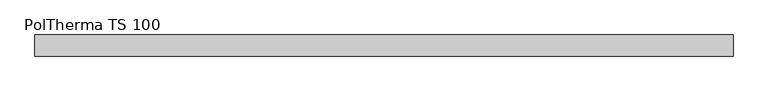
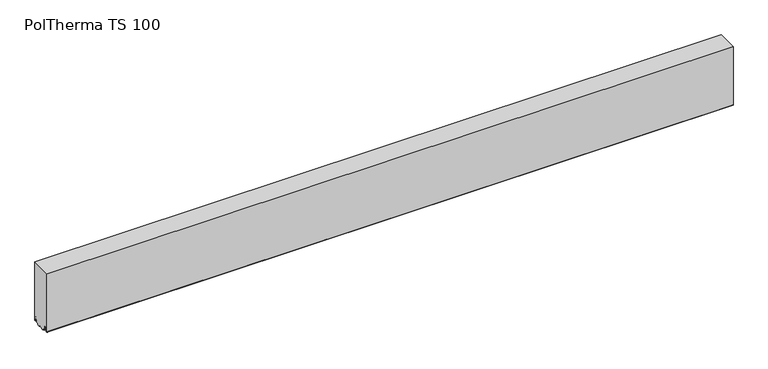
"""IFC4 building model written with IfcOpenShell, lengths in millimetres: plate geometry, Europanels_Poltherma TS_Hz : PolTherma TS 100."""

from ifc_helpers import new_model, si_unit, point, frame, frame_2d, origin, place, context, project, spatial, polyline, circle_curve, trimmed, segment, composite_curve, outline, extrude, source, transform, mapped, element, save


def poltherma_ts_100_b3715b13(model_context):
    return source(origin(), model_context, "Body", "SweptSolid", [
        extrude(outline(composite_curve([segment(polyline([(-50.0, 300.0), (50.0, 300.0), (50.0, 3.8418901)]), True, "CONTINUOUS"), segment(trimmed(circle_curve(frame_2d((47.632528, 3.8418901)), 2.367472), [point((50.0, 3.8418901))], [point((45.2685131, 3.7139946))], False, "CARTESIAN"), True, "CONTINUOUS"), segment(polyline([(45.2685131, 3.7139946), (44.3287441, 21.084649)]), True, "CONTINUOUS"), segment(trimmed(circle_curve(frame_2d((41.0497127, 20.9072503)), 3.2838266), [point((44.3287441, 21.084649))], [point((37.7713293, 21.0962469))], True, "CARTESIAN"), True, "CONTINUOUS"), segment(polyline([(37.7713293, 21.0962469), (36.7366349, 3.1481762)]), True, "CONTINUOUS"), segment(trimmed(circle_curve(frame_2d((34.9895357, 3.2488953)), 1.75), [point((36.7366349, 3.1481762))], [point((34.9895357, 1.4988953))], False, "CARTESIAN"), True, "CONTINUOUS"), segment(polyline([(34.9895357, 1.4988953), (27.5267156, 1.4988953)]), True, "CONTINUOUS"), segment(trimmed(circle_curve(frame_2d((17.7, 3.3524487)), 10.0), [point((27.5267156, 1.4988953))], [point((10.2, -3.2619295))], False, "CARTESIAN"), True, "CONTINUOUS"), segment(trimmed(circle_curve(frame_2d((2.7, -9.8763078)), 10.0), [point((10.2, -3.2619295))], [point((-4.8, -3.2619295))], True, "CARTESIAN"), True, "CONTINUOUS"), segment(trimmed(circle_curve(frame_2d((-12.3, 3.3524487)), 10.0), [point((-4.8, -3.2619295))], [point((-22.1267156, 1.4988953))], False, "CARTESIAN"), True, "CONTINUOUS"), segment(polyline([(-22.1267156, 1.4988953), (-30.5507777, 1.4988953)]), True, "CONTINUOUS"), segment(trimmed(circle_curve(frame_2d((-30.5507777, 3.2988953)), 1.8), [point((-30.5507777, 1.4988953))], [point((-32.3477941, 3.1952985))], False, "CARTESIAN"), True, "CONTINUOUS"), segment(polyline([(-32.3477941, 3.1952985), (-33.3842966, 21.1747334)]), True, "CONTINUOUS"), segment(trimmed(circle_curve(frame_2d((-36.3793238, 21.0020721)), 3.0), [point((-33.3842966, 21.1747334))], [point((-36.3793238, 24.0020721))], True, "CARTESIAN"), True, "CONTINUOUS"), segment(polyline([(-36.3793238, 24.0020721), (-39.3209015, 24.0020721)]), True, "CONTINUOUS"), segment(trimmed(circle_curve(frame_2d((-39.3209015, 21.0020721)), 3.0), [point((-39.3209015, 24.0020721))], [point((-42.3165207, 21.1641379))], True, "CARTESIAN"), True, "CONTINUOUS"), segment(polyline([(-42.3165207, 21.1641379), (-43.2780726, 3.3908514)]), True, "CONTINUOUS"), segment(trimmed(circle_curve(frame_2d((-45.2751521, 3.4988953)), 2.0), [point((-43.2780726, 3.3908514))], [point((-45.2751521, 1.4988953))], False, "CARTESIAN"), True, "CONTINUOUS"), segment(polyline([(-45.2751521, 1.4988953), (-48.0, 1.4988953)]), True, "CONTINUOUS"), segment(trimmed(circle_curve(frame_2d((-48.0, 3.4988953)), 2.0), [point((-48.0, 1.4988953))], [point((-50.0, 3.4988953))], False, "CARTESIAN"), True, "CONTINUOUS"), segment(polyline([(-50.0, 3.4988953), (-50.0, 300.0)]), True, "CONTINUOUS")], self_intersect=False)), frame((-1650.0, 0.0, 0.0), z_axis=(1.0, 0.0, 0.0), x_axis=(0.0, 1.0, 0.0)), (0.0, 0.0, 1.0), 3300.0),
    ])


if __name__ == "__main__":
    model = new_model("IFC4")
    model_context = context("Model", 3, world=origin())
    ifc_project = project(units=[si_unit("LENGTHUNIT", "METRE", prefix="MILLI")], contexts=[model_context])
    site = spatial("IfcSite", under=ifc_project)
    building = spatial("IfcBuilding", under=site)
    placement = place(None, origin())
    poltherma_ts_100_shape = poltherma_ts_100_b3715b13(model_context)
    element("IfcPlate", 1, ObjectType="Europanels_Poltherma TS_Hz : PolTherma TS 100", at=placement, inside=building, context=model_context, shape_type="MappedRepresentation", body=[
        mapped(poltherma_ts_100_shape, transform((0.0, 0.0, 0.0), x_axis=(1.0, 0.0, 0.0), y_axis=(0.0, 1.0, 0.0), z_axis=(0.0, 0.0, 1.0))),
    ])
    save(model, "model.ifc")
